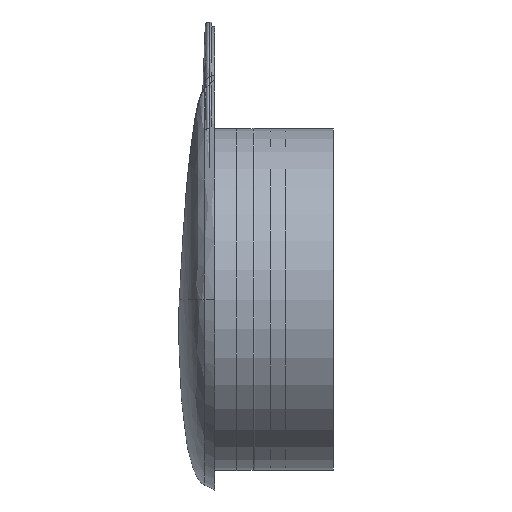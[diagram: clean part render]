
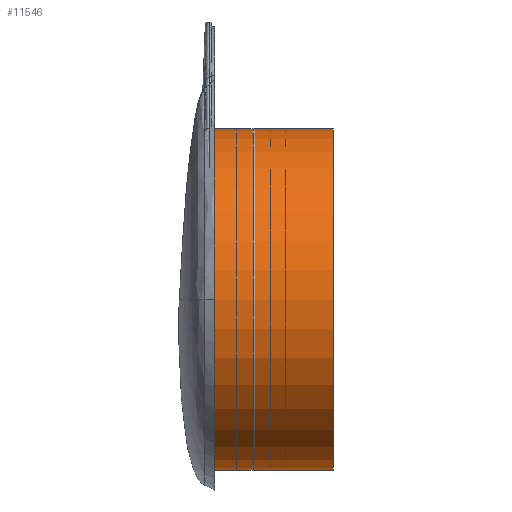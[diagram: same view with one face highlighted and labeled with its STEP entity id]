
A CAD part, left-side view. The second image highlights one B-rep face of the part: STEP entity #11546.
In plain terms, the highlighted cylindrical face has radius 40 mm (diameter 80 mm), a partial arc.
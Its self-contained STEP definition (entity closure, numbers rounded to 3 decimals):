
#8407=CARTESIAN_POINT('',(0.,0.7,0.001));
#8408=DIRECTION('',(0.,-1.,0.));
#8409=DIRECTION('',(0.,0.,1.));
#8410=AXIS2_PLACEMENT_3D('',#8407,#8408,#8409);
#8412=CARTESIAN_POINT('',(0.,-27.8,0.001));
#8413=DIRECTION('',(0.,1.,0.));
#8414=DIRECTION('',(0.,0.,-1.));
#8415=AXIS2_PLACEMENT_3D('',#8412,#8413,#8414);
#8417=DIRECTION('',(0.,-1.,0.));
#8418=VECTOR('',#8417,28.5);
#8419=CARTESIAN_POINT('',(0.,0.7,-39.999));
#8420=LINE('',#8419,#8418);
#8426=DIRECTION('',(0.,1.,0.));
#8427=VECTOR('',#8426,28.5);
#8428=CARTESIAN_POINT('',(0.,-27.8,40.001));
#8429=LINE('',#8428,#8427);
#8563=CARTESIAN_POINT('',(0.,0.7,-39.999));
#8564=CARTESIAN_POINT('',(0.,-27.8,-39.999));
#8565=VERTEX_POINT('',#8563);
#8566=VERTEX_POINT('',#8564);
#8567=CARTESIAN_POINT('',(0.,-27.8,40.001));
#8568=VERTEX_POINT('',#8567);
#8569=CARTESIAN_POINT('',(0.,0.7,40.001));
#8570=VERTEX_POINT('',#8569);
#11532=CARTESIAN_POINT('',(0.,-13.55,0.001));
#11533=DIRECTION('',(0.,1.,0.));
#11534=DIRECTION('',(0.,0.,1.));
#11535=AXIS2_PLACEMENT_3D('',#11532,#11533,#11534);
#11536=CYLINDRICAL_SURFACE('',#11535,40.);
#11538=ORIENTED_EDGE('',*,*,#11537,.F.);
#11540=ORIENTED_EDGE('',*,*,#11539,.F.);
#11542=ORIENTED_EDGE('',*,*,#11541,.F.);
#11543=ORIENTED_EDGE('',*,*,#11521,.F.);
#11544=EDGE_LOOP('',(#11538,#11540,#11542,#11543));
#11545=FACE_OUTER_BOUND('',#11544,.F.);
#11546=ADVANCED_FACE('',(#11545),#11536,.T.);
#8411=CIRCLE('',#8410,40.);
#8416=CIRCLE('',#8415,40.);
#11521=EDGE_CURVE('',#8566,#8568,#8416,.T.);
#11537=EDGE_CURVE('',#8565,#8566,#8420,.T.);
#11539=EDGE_CURVE('',#8570,#8565,#8411,.T.);
#11541=EDGE_CURVE('',#8568,#8570,#8429,.T.);
